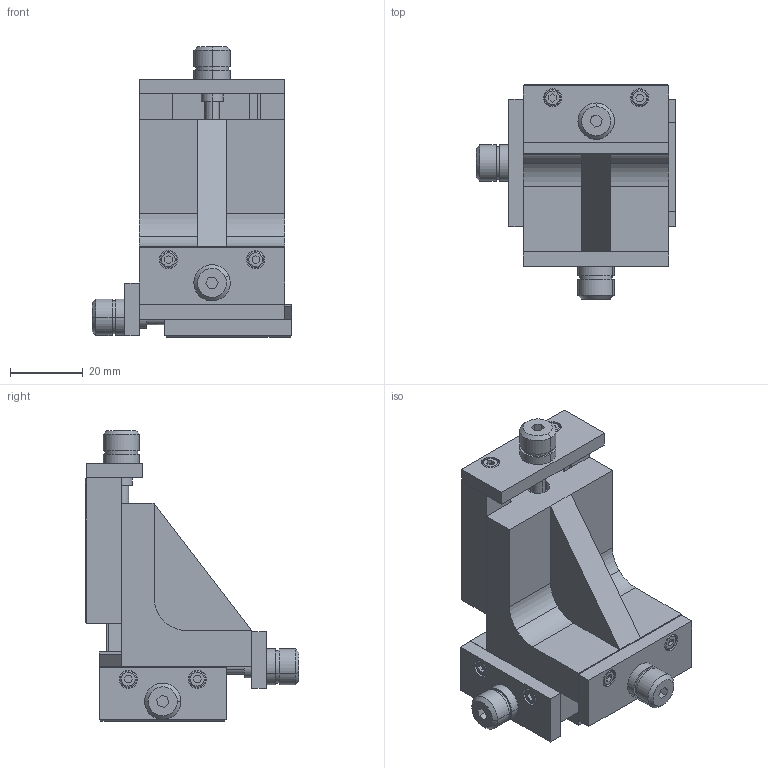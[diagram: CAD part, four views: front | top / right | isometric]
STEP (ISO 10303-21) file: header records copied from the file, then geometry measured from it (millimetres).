
FILE_DESCRIPTION(('STEP AP214'),'1');
FILE_NAME('tmp0.stp','2020-10-08T14:00:03',(' '),(' '),'Spatial InterOp 3D',' ',' ');
FILE_SCHEMA(('automotive_design'));
Length unit declared in the file: millimetre
Products named in the file (20): C40A_StepAP214|NONE#DIN_912;NONE; C40A_StepAP214|NONE#403.435.00;NONE; C40A_StepAP214|NONE#403.436.00;NONE; C40A_StepAP214|NONE#402.991.00;NONE; C40A_StepAP214|NONE#402.985.00;NONE; C40A_StepAP214|NONE#402.984.00;NONE; C40A_StepAP214|NONE#402.987.00;NONE; C40A_StepAP214|NONE#402.989.00;NONE; Bauteil_35229; C40A_StepAP214|NONE#402.983.00;NONE; 1
Bounding box: 55 x 58.9 x 80 mm (x, y, z)
Volume: 73252.5 mm3; surface area: 36553.1 mm2
Topology: 19 solids, 19 shells, 451 faces, 1067 edges, 680 vertices
Faces by surface type: plane 233, cylinder 162, cone 44, torus 12
Entity records: 17474 total; most frequent: CARTESIAN_POINT 2763, DIRECTION 2301, ORIENTED_EDGE 2092, EDGE_CURVE 1046, AXIS2_PLACEMENT_3D 822, VERTEX_POINT 678, LINE 657, VECTOR 657
